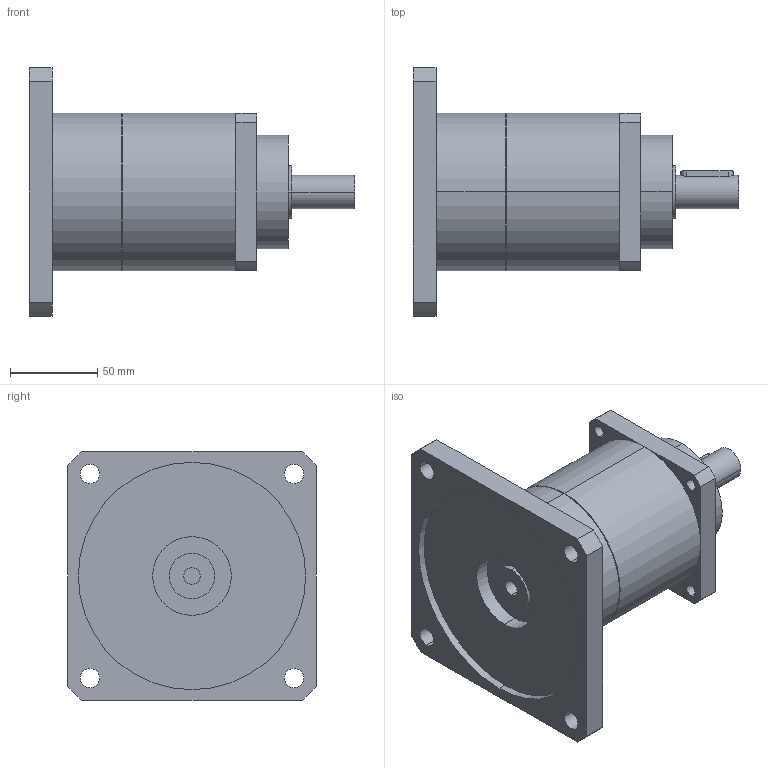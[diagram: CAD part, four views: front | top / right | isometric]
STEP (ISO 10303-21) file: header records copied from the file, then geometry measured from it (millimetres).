
FILE_DESCRIPTION(('CoCreate Modeling STEP Export'),'2;1');
FILE_NAME('GPT90_ig-9-12-16-20-25-28-35-40-50-70-100_19_B5T_9.525_P16.stp','2015-02-04T11:35:02',(''),(''),'CoCreate Modeling STEP processor for AP214 (Solid Model)','CoCreate Modeling 16.00C 25-Feb-2009 (C) Parametric Technology GmbH','');
FILE_SCHEMA(('AUTOMOTIVE_DESIGN { 1 0 10303 214 1 1 1 1 }'));
Length unit declared in the file: millimetre
Products named in the file (2): GPT90_ig-9-12-16-20-25-28-35-40-50-70-100_19_B5T_9.525_P16
Assembly tree (1 placements, depth 2):
  GPT90_ig-9-12-16-20-25-28-35-40-50-70-100_19_B5T_9.525_P16
    GPT90_ig-9-12-16-20-25-28-35-40-50-70-100_19_B5T_9.525_P16
Bounding box: 186 x 142 x 142 mm (x, y, z)
Volume: 1015458.4 mm3; surface area: 97479.8 mm2
Topology: 1 solids, 1 shells, 77 faces, 206 edges, 141 vertices
Faces by surface type: cylinder 46, plane 27, cone 4
Entity records: 2596 total; most frequent: CARTESIAN_POINT 742, ORIENTED_EDGE 412, DIRECTION 324, EDGE_CURVE 206, VERTEX_POINT 141, AXIS2_PLACEMENT_3D 120, EDGE_LOOP 103, VECTOR 84
